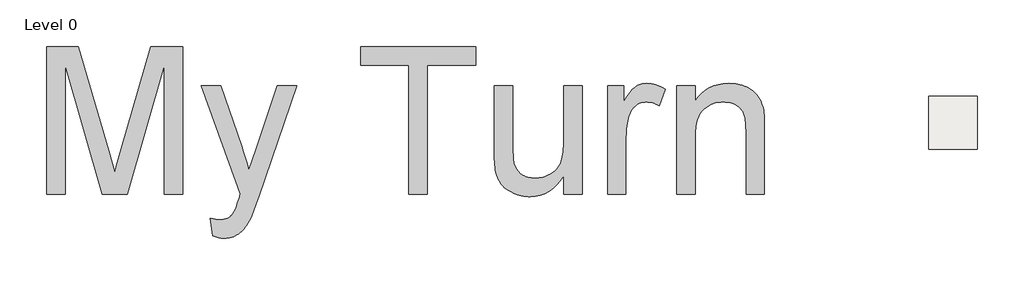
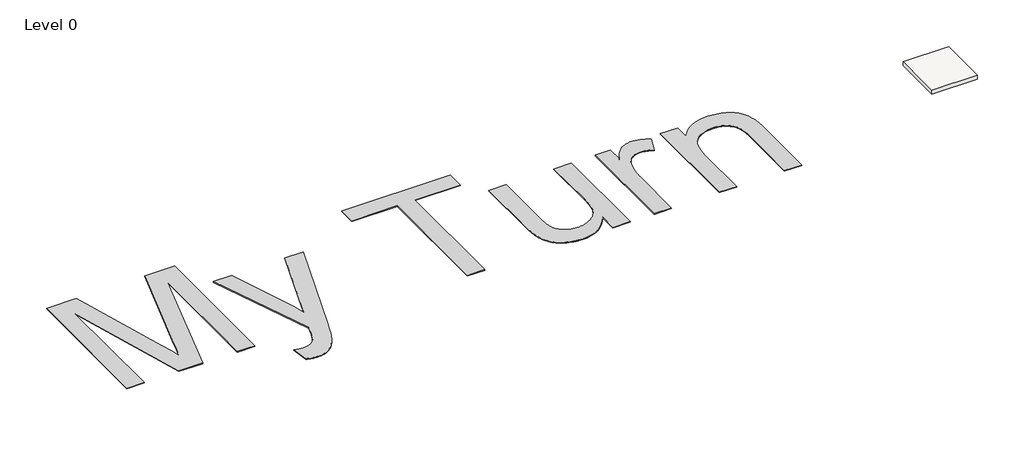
# One storey, incomplete: 1 proxy, 1 slab.
"""IFC4 building model written with IfcOpenShell, lengths in millimetres."""

import ifcopenshell
import ifcopenshell.guid

model = None  # the IFC model being written
_history = None  # IfcOwnerHistory: only IFC2X3 demands one
_inside = {}  # id of a spatial element -> (the spatial element, [elements in it])
_under = {}  # id of a project, library or spatial element -> (it, [spatial elements below it])
_declared = {}  # id of a project -> (the project, [libraries it declares])
_typed = {}  # id of a type object -> (the type object, [elements of that type])
_made_of = {}  # id of a material, layer set ... -> (it, [elements and type objects made of it])


def new_model(schema):
    """Start an empty IFC model of exactly this schema.

    Asked for "IFC4X3", IfcOpenShell would pick the latest addendum, in which some entities
    have other attributes; the version numbers below select the first issue.
    IFC2X3 requires an IfcOwnerHistory on every rooted entity: one is made here for all.
    """
    global model, _history
    if schema == "IFC4X3":
        model = ifcopenshell.file(schema_version=(4, 3, 0, 0))
    else:
        model = ifcopenshell.file(schema=schema)
    _inside.clear()
    _under.clear()
    _declared.clear()
    _typed.clear()
    _made_of.clear()
    _history = None
    if model.schema == "IFC2X3":
        org = make("IfcOrganization", Name="unknown")
        user = make(
            "IfcPersonAndOrganization",
            ThePerson=make("IfcPerson", FamilyName="unknown"),
            TheOrganization=org,
        )
        app = make(
            "IfcApplication",
            ApplicationDeveloper=org,
            Version="unknown",
            ApplicationFullName="unknown",
            ApplicationIdentifier="unknown",
        )
        _history = make(
            "IfcOwnerHistory",
            OwningUser=user,
            OwningApplication=app,
            ChangeAction="ADDED",
            CreationDate=0,
        )
    return model


def make(cls, **values):
    """One entity of the class cls with the attributes given. An attribute that is None is left unset."""
    return model.create_entity(
        cls, **{name: value for name, value in values.items() if value is not None}
    )


def rooted(cls, **values):
    """An entity with a GlobalId (a new one), such as an element, a storey or a relation."""
    return make(cls, GlobalId=ifcopenshell.guid.new(), OwnerHistory=_history, **values)


def si_unit(unit_type, name, prefix=None):
    """IfcSIUnit, for example si_unit("LENGTHUNIT", "METRE", prefix="MILLI")."""
    return make("IfcSIUnit", UnitType=unit_type, Prefix=prefix, Name=name)


def assignment(units):
    """IfcUnitAssignment: the units of a project."""
    return None if units is None else make("IfcUnitAssignment", Units=units)


def point(xyz):
    """IfcCartesianPoint."""
    return None if xyz is None else make("IfcCartesianPoint", Coordinates=xyz)


def direction(xyz):
    """IfcDirection."""
    return None if xyz is None else make("IfcDirection", DirectionRatios=xyz)


def frame(location, z_axis=None, x_axis=None):
    """IfcAxis2Placement3D, a coordinate frame: its origin and axes. An axis left out is left unset."""
    return make(
        "IfcAxis2Placement3D",
        Location=point(location),
        Axis=direction(z_axis),
        RefDirection=direction(x_axis),
    )


def origin():
    """The frame at (0, 0, 0) with its axes left unset."""
    return frame((0.0, 0.0, 0.0))


def origin_with_axes():
    """The frame at (0, 0, 0) with the z axis (0, 0, 1) and the x axis (1, 0, 0) written out."""
    return frame((0.0, 0.0, 0.0), z_axis=(0.0, 0.0, 1.0), x_axis=(1.0, 0.0, 0.0))


def place(relative_to, where):
    """IfcLocalPlacement: puts the frame where relative to a parent placement (None: the world)."""
    return make(
        "IfcLocalPlacement", PlacementRelTo=relative_to, RelativePlacement=where
    )


def context(
    kind, dimensions, precision=None, world=None, true_north=None, identifier=None
):
    """IfcGeometricRepresentationContext, for example the 3D "Model" context."""
    return make(
        "IfcGeometricRepresentationContext",
        ContextIdentifier=identifier,
        ContextType=kind,
        CoordinateSpaceDimension=dimensions,
        Precision=precision,
        WorldCoordinateSystem=world,
        TrueNorth=true_north,
    )


def project(units=None, contexts=None):
    """IfcProject with its units and contexts."""
    return rooted(
        "IfcProject",
        Name="project",
        RepresentationContexts=contexts,
        UnitsInContext=assignment(units),
    )


def spatial(cls, under=None, at=None, **own):
    """A site, building, storey or space (cls), placed at a placement, below another one or the project."""
    s = rooted(cls, ObjectPlacement=at, **own)
    if under is not None:
        _under.setdefault(under.id(), (under, []))[1].append(s)
    return s


def polyline(points):
    """IfcPolyline through the points."""
    return make("IfcPolyline", Points=[point(p) for p in points])


def outline(outer, holes=None, kind="AREA"):
    """IfcArbitraryClosedProfileDef: a profile drawn as a closed curve; with holes, ...WithVoids."""
    if holes is None:
        return make("IfcArbitraryClosedProfileDef", ProfileType=kind, OuterCurve=outer)
    return make(
        "IfcArbitraryProfileDefWithVoids",
        ProfileType=kind,
        OuterCurve=outer,
        InnerCurves=holes,
    )


def extrude(swept, where, along, depth):
    """IfcExtrudedAreaSolid: the profile swept, set in the frame where, extruded along a direction by depth."""
    return make(
        "IfcExtrudedAreaSolid",
        SweptArea=swept,
        Position=where,
        ExtrudedDirection=direction(along),
        Depth=depth,
    )


def shape(context_of_items, identifier, shape_type, items):
    """IfcShapeRepresentation: the items that make up one representation, for example the "Body"."""
    return make(
        "IfcShapeRepresentation",
        ContextOfItems=context_of_items,
        RepresentationIdentifier=identifier,
        RepresentationType=shape_type,
        Items=items,
    )


def made_of(thing, what):
    """Note that an element or type object is made of a material, layer set ...; save() writes the relation."""
    if what is not None:
        _made_of.setdefault(what.id(), (what, []))[1].append(thing)
    return thing


def element(
    cls,
    number,
    at=None,
    inside=None,
    cuts=None,
    type_object=None,
    material=None,
    context=None,
    identifier="Body",
    shape_type=None,
    held_by="IfcProductDefinitionShape",
    body=None,
    shapes=None,
    **own,
):
    """One element of the class cls, such as IfcWall. Its Tag is "e" and its number.

    at: its placement. inside: the storey or other place that contains it. cuts: it is an
    opening in that element (IfcRelVoidsElement). A single representation is given by context,
    identifier, shape_type and body (its items); several are given by shapes. held_by: the class
    of the entity that holds the representations. save() writes the other relations.
    """
    e = rooted(cls, Tag="e%d" % number, ObjectPlacement=at, **own)
    if body is not None:
        shapes = [shape(context, identifier, shape_type, body)]
    if shapes is not None:
        e.Representation = make(held_by, Representations=shapes)
    if inside is not None:
        _inside.setdefault(inside.id(), (inside, []))[1].append(e)
    if cuts is not None:
        rooted(
            "IfcRelVoidsElement", RelatingBuildingElement=cuts, RelatedOpeningElement=e
        )
    if type_object is not None:
        _typed.setdefault(type_object.id(), (type_object, []))[1].append(e)
    return made_of(e, material)


def aggregate(whole, parts):
    """IfcRelAggregates: a whole, such as a stair, and the parts it consists of."""
    return rooted("IfcRelAggregates", RelatingObject=whole, RelatedObjects=parts)


def save(model, path):
    """Write the relations noted so far, then the file.

    IfcRelAggregates (storeys below a building ...), IfcRelContainedInSpatialStructure (elements
    in a storey), IfcRelDefinesByType, IfcRelAssociatesMaterial and IfcRelDeclares: one each for
    every whole, place, type object, material and project.
    """
    for whole, parts in _under.values():
        aggregate(whole, parts)
    for where, things in _inside.values():
        rooted(
            "IfcRelContainedInSpatialStructure",
            RelatedElements=things,
            RelatingStructure=where,
        )
    for kind, things in _typed.values():
        rooted("IfcRelDefinesByType", RelatedObjects=things, RelatingType=kind)
    for what, things in _made_of.values():
        rooted("IfcRelAssociatesMaterial", RelatedObjects=things, RelatingMaterial=what)
    for by, libraries in _declared.values():
        rooted("IfcRelDeclares", RelatingContext=by, RelatedDefinitions=libraries)
    model.write(path)


model = new_model("IFC4")

# Units and contexts
model_context = context("Model", 3, world=origin())
ifc_project = project(units=[si_unit("LENGTHUNIT", "METRE", prefix="MILLI")], contexts=[model_context])

# Site, building, storey
site = spatial("IfcSite", under=ifc_project)
building = spatial("IfcBuilding", under=site)
storey = spatial("IfcBuildingStorey", under=building, Name="Level 0", Elevation=0.0)

# Proxy
placement = place(None, origin())
element("IfcBuildingElementProxy", 1, Name="10 mm", ObjectType="10 mm", at=placement, inside=storey, context=model_context, shape_type="SweptSolid", body=[
    extrude(outline(polyline([(-165043.4117531, 70710.4267394), (-165043.4117531, 80756.0577544), (-162882.7181681, 80756.0577544), (-160827.4840883, 73675.5556205), (-160581.6162882, 72811.6460685), (-160413.0037071, 72196.6699999), (-160228.4495729, 72869.2809144), (-159964.187673, 73798.1829523), (-157943.2892462, 80756.0577544), (-155782.5956612, 80756.0577544), (-155782.5956612, 70710.4267394), (-157038.299538, 70710.4267394), (-157038.299538, 79500.3538775), (-159561.9700249, 70710.4267394), (-161264.0373893, 70710.4267394), (-163787.7078762, 79500.3538775), (-163787.7078762, 70710.4267394), (-165043.4117531, 70710.4267394)])), origin_with_axes(), (0.0, 0.0, 1.0), 50.0),
    extrude(outline(polyline([(-153742.0768612, 67885.0930165), (-153899.0398459, 69094.1985073), (-153722.1499198, 69045.9139954), (-153556.9095903, 69011.4250584), (-153403.3188573, 68990.7316961), (-153330.8920895, 68985.5583556), (-153261.3777209, 68983.8339087), (-153170.5185323, 68985.9990475), (-153084.3345107, 68992.494464), (-153002.8256561, 69003.3201581), (-152925.9919686, 69018.4761299), (-152853.8334481, 69037.9623794), (-152786.3500946, 69061.7789064), (-152723.5419081, 69089.9257112), (-152665.4088887, 69122.4027936), (-152610.8780471, 69158.7503011), (-152558.8763943, 69198.5083813), (-152509.4039301, 69241.6770342), (-152462.4606547, 69288.2562597), (-152418.046568, 69338.2460579), (-152376.16167, 69391.6464288), (-152336.8059607, 69448.4573723), (-152299.9794401, 69508.6788885), (-152271.5452276, 69563.8995088), (-152238.9723426, 69636.3645977), (-152161.4105553, 69833.0281809), (-152067.2940782, 70098.6696383), (-151956.6229113, 70433.2889697), (-151917.3821652, 70562.047668), (-151858.5210459, 70737.4047524), (-154526.8917843, 78087.687016), (-153202.5166016, 78087.687016), (-151787.3971935, 73991.9341364), (-151653.5801178, 73597.0741282), (-151526.8141136, 73192.4039335), (-151407.099181, 72777.9235523), (-151294.43532, 72353.6329845), (-150801.4734465, 73800.6354989), (-149347.1132922, 78087.687016), (-148032.5482961, 78087.687016), (-150600.3646224, 70533.8433817), (-150803.0062881, 69985.3926406), (-150981.7356241, 69529.5255349), (-151062.1331685, 69336.3108453), (-151136.5526304, 69166.2420647), (-151204.9940099, 69019.3191928), (-151267.457307, 68895.5422299), (-151348.5829512, 68749.7306682), (-151432.5443524, 68613.9592194), (-151519.3415106, 68488.2278833), (-151608.9744259, 68372.5366601), (-151701.4430982, 68266.8855496), (-151796.7475276, 68171.2745519), (-151894.887714, 68085.7036669), (-151995.8636575, 68010.1728948), (-152100.7483471, 67944.0690988), (-152210.6147722, 67886.7791423), (-152325.4629325, 67838.3030252), (-152445.2928282, 67798.6407476), (-152570.1044593, 67767.7923094), (-152699.8978257, 67745.7577108), (-152834.6729275, 67732.5369516), (-152974.4297646, 67728.1300318), (-153061.5334912, 67730.5825785), (-153151.1664065, 67737.9402184), (-153243.3285105, 67750.2029516), (-153338.0198032, 67767.370778), (-153435.2402846, 67789.4436977), (-153534.9899548, 67816.4217107), (-153637.2688137, 67848.3048169), (-153742.0768612, 67885.0930165)])), origin_with_axes(), (0.0, 0.0, 1.0), 50.0),
    extrude(outline(polyline([(-140400.2231695, 70710.4267394), (-140400.2231695, 79500.3538775), (-143696.4458463, 79500.3538775), (-143696.4458463, 80756.0577544), (-135848.2966158, 80756.0577544), (-135848.2966158, 79500.3538775), (-139144.5192926, 79500.3538775), (-139144.5192926, 70710.4267394), (-140400.2231695, 70710.4267394)])), origin_with_axes(), (0.0, 0.0, 1.0), 50.0),
    extrude(outline(polyline([(-129883.7032007, 70710.4267394), (-129883.7032007, 71978.3933495), (-130101.5199987, 71644.4254757), (-130338.0374648, 71354.9866518), (-130593.2555989, 71110.0768777), (-130867.1744011, 70909.6961535), (-131159.7938715, 70753.844479), (-131471.1140099, 70642.5218545), (-131801.1348164, 70575.7282797), (-132149.856291, 70553.4637548), (-132306.723473, 70557.372501), (-132460.9465032, 70569.0987396), (-132612.5253815, 70588.6424706), (-132761.460108, 70616.003694), (-132907.7506826, 70651.1824098), (-133051.3971054, 70694.178618), (-133192.3993764, 70744.9923185), (-133330.7574955, 70803.6235115), (-133463.386619, 70868.1561448), (-133587.201903, 70936.6741664), (-133702.2033475, 71009.1775763), (-133808.3909526, 71085.6663745), (-133905.7647182, 71166.1405609), (-133994.3246443, 71250.6001357), (-134074.070731, 71339.0450987), (-134145.0029782, 71431.47545), (-134209.0565985, 71528.5426472), (-134268.1668045, 71630.8981482), (-134322.3335962, 71738.5419528), (-134371.5569735, 71851.4740611), (-134415.8369366, 71969.6944731), (-134455.1734854, 72093.2031888), (-134489.5666198, 72222.0002081), (-134519.0163399, 72356.0855312), (-134536.2608085, 72454.8005332), (-134551.2060145, 72567.0045417), (-134563.8519581, 72692.6975568), (-134574.1986392, 72831.8795783), (-134587.994214, 73150.7106407), (-134592.592739, 73523.4977292), (-134592.592739, 78087.687016), (-133336.8888621, 78087.687016), (-133336.8888621, 74114.5614681), (-133332.137053, 73678.6213038), (-133317.8816257, 73319.9363585), (-133307.1900552, 73169.564593), (-133294.1225802, 73038.5066322), (-133278.6792006, 72926.7624762), (-133260.8599164, 72834.3321249), (-133227.3481659, 72717.9702834), (-133185.6740337, 72608.0080558), (-133135.8375196, 72504.445442), (-133077.8386238, 72407.2824422), (-133011.6773463, 72316.5190562), (-132937.3536869, 72232.155284), (-132854.8676458, 72154.1911258), (-132764.2192229, 72082.6265814), (-132666.7113337, 72018.5346401), (-132563.6468935, 71962.9882909), (-132455.0259023, 71915.9875339), (-132340.8483602, 71877.5323691), (-132221.114267, 71847.6227965), (-132095.823623, 71826.258816), (-131964.9764279, 71813.4404278), (-131828.5726819, 71809.1676317), (-131689.8696734, 71813.5362304), (-131553.3509642, 71826.6420264), (-131419.0165544, 71848.4850199), (-131286.866444, 71879.0652108), (-131156.9006329, 71918.382599), (-131029.1191211, 71966.4371846), (-130903.5219087, 72023.2289676), (-130780.1089956, 72088.757948), (-130662.2526335, 72161.817013), (-130553.325074, 72241.1990498), (-130453.3263171, 72326.9040583), (-130362.2563628, 72418.9320387), (-130280.115211, 72517.2829908), (-130206.9028619, 72621.9569148), (-130142.6193153, 72732.9538105), (-130087.2645714, 72850.273678), (-130039.5548751, 72977.5570162), (-129998.2064717, 73118.4443241), (-129963.2193611, 73272.9356015), (-129934.5935434, 73441.0308486), (-129912.3290185, 73622.7300653), (-129896.4257864, 73818.0332516), (-129886.8838471, 74026.9404075), (-129883.7032007, 74249.451533), (-129883.7032007, 78087.687016), (-128627.9993238, 78087.687016), (-128627.9993238, 70710.4267394), (-129883.7032007, 70710.4267394)])), origin_with_axes(), (0.0, 0.0, 1.0), 50.0),
    extrude(outline(polyline([(-126901.4064931, 70710.4267394), (-126901.4064931, 78087.687016), (-125802.6656009, 78087.687016), (-125802.6656009, 76996.3037637), (-125698.2024427, 77178.8652038), (-125595.7319786, 77345.1785224), (-125495.2542087, 77495.2437196), (-125396.7691329, 77629.0607954), (-125300.2767512, 77746.6297497), (-125205.7770637, 77847.9505825), (-125113.2700703, 77933.0232939), (-125022.7557711, 78001.8478838), (-124932.1648298, 78058.7546299), (-124839.4279102, 78108.0738099), (-124744.5450123, 78149.8054237), (-124647.516136, 78183.9494714), (-124548.3412815, 78210.505953), (-124447.0204487, 78229.4748683), (-124343.5536375, 78240.8562176), (-124237.9408481, 78244.6500006), (-124082.5107051, 78238.5952761), (-123926.4674255, 78220.4311026), (-123769.8110092, 78190.1574801), (-123612.5414563, 78147.7744086), (-123454.6587667, 78093.281888), (-123296.1629404, 78026.6799185), (-123137.0539775, 77947.9684999), (-122977.3318779, 77857.1476324), (-123396.7173524, 76731.4287271), (-123507.081951, 76791.784367), (-123617.4465495, 76844.0925882), (-123727.8111481, 76888.3533907), (-123838.1757466, 76924.5667746), (-123948.5403452, 76952.7327399), (-124058.9049437, 76972.8512865), (-124169.2695423, 76984.9224144), (-124279.6341408, 76988.9461238), (-124377.1037091, 76985.0756986), (-124472.0824096, 76973.4644231), (-124564.5702424, 76954.1122973), (-124654.5672076, 76927.0193212), (-124742.0733051, 76892.1854948), (-124827.0885349, 76849.6108181), (-124909.6128971, 76799.295291), (-124989.6463915, 76741.2389137), (-125065.6561767, 76676.3230699), (-125136.1094109, 76605.4291438), (-125201.0060941, 76528.5571352), (-125260.3462263, 76445.7070442), (-125314.1298076, 76356.8788708), (-125362.3568379, 76262.072615), (-125405.0273172, 76161.2882767), (-125442.1412456, 76054.525856), (-125489.8509419, 75885.1468541), (-125531.1993453, 75711.7824638), (-125566.1864559, 75534.4326853), (-125594.8122736, 75353.0975185), (-125617.0767985, 75167.7769635), (-125632.9800306, 74978.4710201), (-125642.5219699, 74785.1796885), (-125645.7026163, 74587.9029686), (-125645.7026163, 70710.4267394), (-126901.4064931, 70710.4267394)])), origin_with_axes(), (0.0, 0.0, 1.0), 50.0),
    extrude(outline(polyline([(-122192.5169549, 70710.4267394), (-122192.5169549, 78087.687016), (-120936.813078, 78087.687016), (-120936.813078, 77057.6174295), (-120729.6495295, 77335.8281884), (-120500.5663454, 77576.9441794), (-120249.5635258, 77780.9654025), (-119976.6410706, 77947.8918579), (-119681.7989799, 78077.7235453), (-119365.0372536, 78170.4604649), (-119026.3558918, 78226.1026167), (-118665.7548945, 78244.6500006), (-118506.1285975, 78240.9136991), (-118349.759589, 78229.7047946), (-118196.647869, 78211.023287), (-118046.7934376, 78184.8691764), (-117900.1962946, 78151.2424628), (-117756.8564401, 78110.1431461), (-117616.7738741, 78061.5712265), (-117479.9485967, 78005.5267038), (-117349.005599, 77943.408296), (-117226.5698725, 77876.6147213), (-117112.6414171, 77805.1459795), (-117007.2202329, 77729.0020707), (-116910.3063198, 77648.1829949), (-116821.8996778, 77562.6887521), (-116742.000307, 77472.5193422), (-116670.6082073, 77377.6747653), (-116605.9797714, 77278.212503), (-116546.3713918, 77174.1900367), (-116491.7830687, 77065.6073666), (-116442.2148019, 76952.4644926), (-116397.6665916, 76834.7614146), (-116358.1384376, 76712.4981328), (-116323.6303401, 76585.6746471), (-116294.1422989, 76454.2909574), (-116278.6222772, 76359.6763068), (-116265.1715918, 76248.7368926), (-116253.7902425, 76121.4727149), (-116244.4782295, 75977.8837737), (-116232.0622122, 75641.7316006), (-116227.9235397, 75240.2803734), (-116227.9235397, 70710.4267394), (-117483.6274166, 70710.4267394), (-117483.6274166, 75071.0546556), (-117485.888358, 75250.9719438), (-117492.6711823, 75419.1629935), (-117503.9758895, 75575.6278046), (-117519.8024795, 75720.3663771), (-117540.1509523, 75853.3787109), (-117565.021308, 75974.6648062), (-117594.4135466, 76084.2246629), (-117628.3276681, 76182.058281), (-117667.9707851, 76271.7103568), (-117714.5500107, 76356.7255866), (-117768.0653447, 76437.1039705), (-117828.5167871, 76512.8455083), (-117895.904338, 76583.9502002), (-117970.2279973, 76650.4180461), (-118051.4877651, 76712.249046), (-118139.6836413, 76769.4432), (-118233.3594265, 76820.8891977), (-118331.0589209, 76865.4757291), (-118432.7821247, 76903.2027942), (-118538.5290378, 76934.0703928), (-118648.2996602, 76958.0785251), (-118762.0939919, 76975.227191), (-118879.912033, 76985.5163906), (-119001.7537834, 76988.9461238), (-119195.7923753, 76981.2435945), (-119383.048143, 76958.1360067), (-119563.5210863, 76919.6233603), (-119737.2112054, 76865.7056554), (-119904.1185002, 76796.3828919), (-120064.2429707, 76711.6550699), (-120217.5846169, 76611.5221893), (-120364.1434389, 76495.9842502), (-120498.3628855, 76358.909886), (-120614.686406, 76194.16773), (-120713.1140002, 76001.7577823), (-120793.6456682, 75781.6800429), (-120856.28141, 75533.9345118), (-120901.0212256, 75258.5211889), (-120927.8651149, 74955.4400744), (-120936.813078, 74624.6911681), (-120936.813078, 70710.4267394), (-122192.5169549, 70710.4267394)])), origin_with_axes(), (0.0, 0.0, 1.0), 50.0),
])

# Slab
element("IfcSlab", 2, ObjectType="FL_300 mm_Generic", at=placement, inside=storey, context=model_context, shape_type="SweptSolid", body=[
    extrude(outline(polyline([(-101747.8885325, 77369.9753886), (-101747.8885325, 73769.9753886), (-105047.8885325, 73769.9753886), (-105047.8885325, 77369.9753886), (-101747.8885325, 77369.9753886)])), frame((0.0, 0.0, -300.0), z_axis=(0.0, 0.0, 1.0), x_axis=(1.0, 0.0, 0.0)), (0.0, 0.0, 1.0), 300.0),
])

save(model, "model.ifc")
